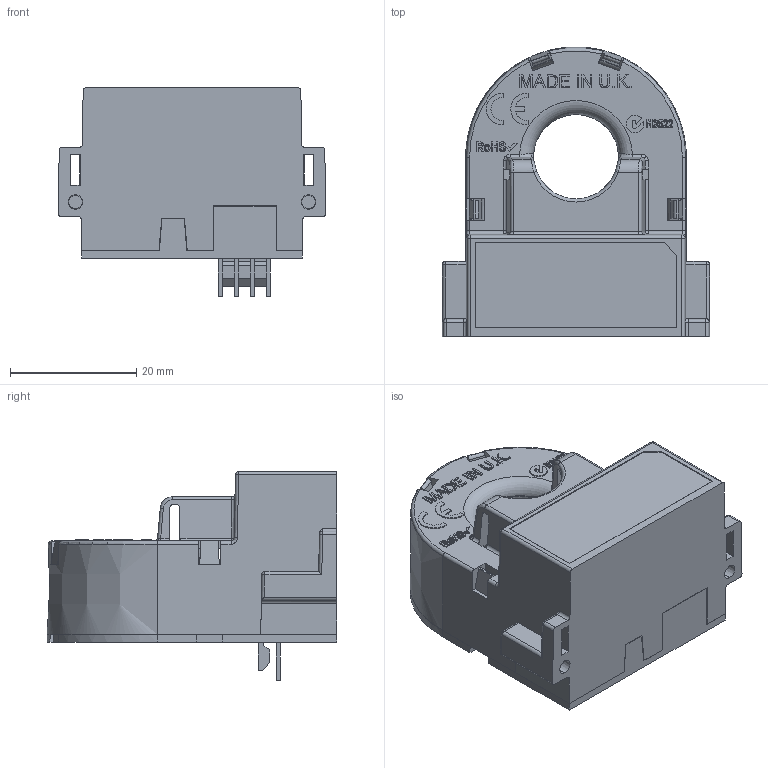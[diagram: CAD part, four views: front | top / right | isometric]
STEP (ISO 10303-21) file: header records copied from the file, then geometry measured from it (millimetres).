
FILE_DESCRIPTION(('FreeCAD Model'),'2;1');
FILE_NAME('H:/Projects/PJ213 - RCM-EV 6mA Detectors/Housing/RCM-EV-02_S/Broyce_RCM-EV-02_S.step', '2021-02-01T16:53:47',('Author'),(''), 'Open CASCADE STEP processor 7.3','FreeCAD','Unknown');
FILE_SCHEMA(('AUTOMOTIVE_DESIGN { 1 0 10303 214 1 1 1 1 }'));
Products named in the file (1): Fusion
Bounding box: 42.48 x 46 x 33.11 mm (x, y, z)
Volume: 8694.1 mm3; surface area: 14630.2 mm2
Topology: 2 solids, 4 shells, 795 faces, 6586 edges, 18977 vertices
Faces by surface type: plane 472, bspline 111, cylinder 106, cone 65, torus 25, sphere 16
Entity records: 124181 total; most frequent: CARTESIAN_POINT 57832, DIRECTION 10416, LINE 7231, VECTOR 7231, GEOMETRIC_CURVE_SET 4391, ORIENTED_EDGE 4388, PCURVE 4388, DEFINITIONAL_REPRESENTATION 4388
